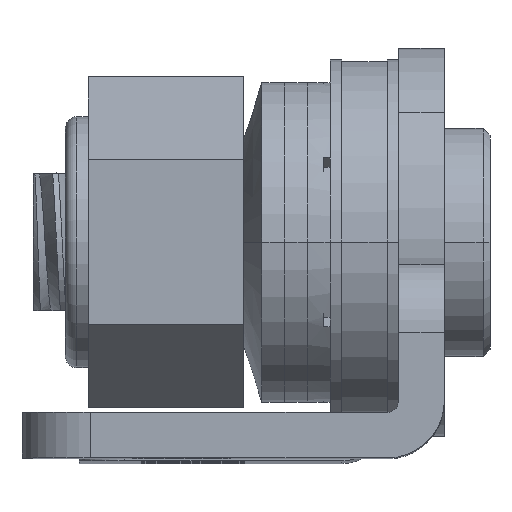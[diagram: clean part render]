
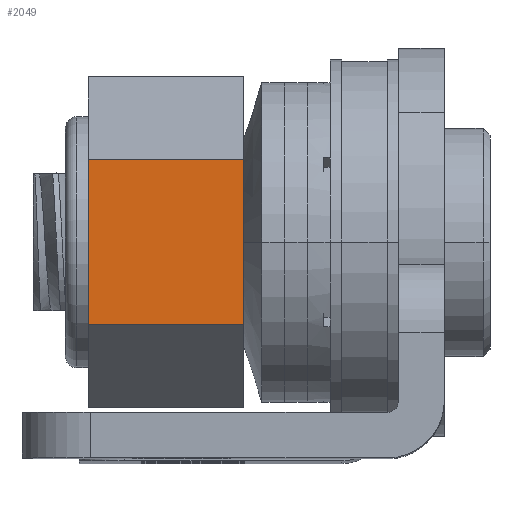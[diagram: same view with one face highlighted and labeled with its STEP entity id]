
A CAD part, top view. The second image highlights one B-rep face of the part: STEP entity #2049.
In plain terms, the highlighted planar face has unit normal (0, 0, 1).
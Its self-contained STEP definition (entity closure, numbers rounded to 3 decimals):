
#128 = LINE ( 'NONE', #9475, #1016 ) ;
#582 = CARTESIAN_POINT ( 'NONE',  ( 9.7, 5.875, -26.721 ) ) ;
#1016 = VECTOR ( 'NONE', #5299, 1000. ) ;
#2049 = ADVANCED_FACE ( 'NONE', ( #9924 ), #6695, .T. ) ;
#2451 = VECTOR ( 'NONE', #3628, 1000. ) ;
#2454 = DIRECTION ( 'NONE',  ( 0., 1., 0. ) ) ;
#2857 = VERTEX_POINT ( 'NONE', #5480 ) ;
#3014 = VECTOR ( 'NONE', #5175, 1000. ) ;
#3223 = CARTESIAN_POINT ( 'NONE',  ( 9.7, 13.125, -26.721 ) ) ;
#3459 = LINE ( 'NONE', #6109, #3014 ) ;
#3472 = EDGE_CURVE ( 'NONE', #2857, #3593, #9527, .T. ) ;
#3523 = CARTESIAN_POINT ( 'NONE',  ( 2.9, 13.125, -26.721 ) ) ;
#3593 = VERTEX_POINT ( 'NONE', #3523 ) ;
#3628 = DIRECTION ( 'NONE',  ( 0., 1., 0. ) ) ;
#3750 = EDGE_LOOP ( 'NONE', ( #3833, #7810, #5885, #9801 ) ) ;
#3833 = ORIENTED_EDGE ( 'NONE', *, *, #4664, .T. ) ;
#4664 = EDGE_CURVE ( 'NONE', #7248, #3593, #3459, .T. ) ;
#4792 = LINE ( 'NONE', #5613, #5788 ) ;
#5038 = CARTESIAN_POINT ( 'NONE',  ( 9.7, 5.875, -26.721 ) ) ;
#5175 = DIRECTION ( 'NONE',  ( -1., 0., 0. ) ) ;
#5299 = DIRECTION ( 'NONE',  ( -1., 0., 0. ) ) ;
#5480 = CARTESIAN_POINT ( 'NONE',  ( 2.9, 5.875, -26.721 ) ) ;
#5613 = CARTESIAN_POINT ( 'NONE',  ( 9.7, 5.875, -26.721 ) ) ;
#5788 = VECTOR ( 'NONE', #2454, 1000. ) ;
#5885 = ORIENTED_EDGE ( 'NONE', *, *, #10232, .F. ) ;
#6109 = CARTESIAN_POINT ( 'NONE',  ( 9.7, 13.125, -26.721 ) ) ;
#6695 = PLANE ( 'NONE',  #8705 ) ;
#7174 = VERTEX_POINT ( 'NONE', #582 ) ;
#7248 = VERTEX_POINT ( 'NONE', #3223 ) ;
#7810 = ORIENTED_EDGE ( 'NONE', *, *, #3472, .F. ) ;
#8283 = DIRECTION ( 'NONE',  ( 0., 1., 0. ) ) ;
#8395 = DIRECTION ( 'NONE',  ( 0., 0., 1. ) ) ;
#8644 = CARTESIAN_POINT ( 'NONE',  ( 2.9, 5.875, -26.721 ) ) ;
#8705 = AXIS2_PLACEMENT_3D ( 'NONE', #5038, #8395, #8283 ) ;
#8719 = EDGE_CURVE ( 'NONE', #7174, #7248, #4792, .T. ) ;
#9475 = CARTESIAN_POINT ( 'NONE',  ( 9.7, 5.875, -26.721 ) ) ;
#9527 = LINE ( 'NONE', #8644, #2451 ) ;
#9801 = ORIENTED_EDGE ( 'NONE', *, *, #8719, .T. ) ;
#9924 = FACE_OUTER_BOUND ( 'NONE', #3750, .T. ) ;
#10232 = EDGE_CURVE ( 'NONE', #7174, #2857, #128, .T. ) ;
